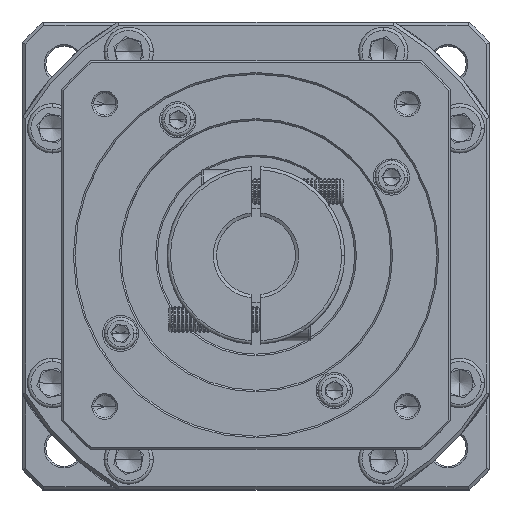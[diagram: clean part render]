
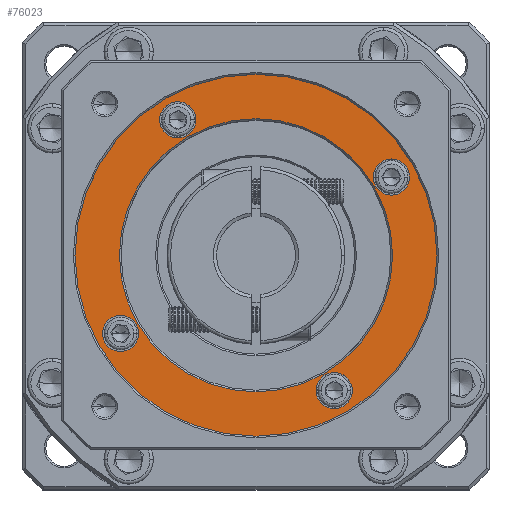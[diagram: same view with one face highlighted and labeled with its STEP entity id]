
A CAD part, top view. The second image highlights one B-rep face of the part: STEP entity #76023.
In plain terms, the highlighted planar face has unit normal (0, 0, 1).
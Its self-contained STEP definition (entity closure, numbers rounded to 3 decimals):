
#1924 = VERTEX_POINT ( 'NONE', #78557 ) ;
#3318 = CARTESIAN_POINT ( 'NONE',  ( -124.878, 127.627, -18.552 ) ) ;
#4926 = CIRCLE ( 'NONE', #24067, 5.5 ) ;
#5790 = DIRECTION ( 'NONE',  ( 0., 0., -1. ) ) ;
#5851 = EDGE_LOOP ( 'NONE', ( #95341, #35473 ) ) ;
#7870 = VERTEX_POINT ( 'NONE', #28276 ) ;
#9694 = EDGE_CURVE ( 'NONE', #20577, #7870, #68476, .T. ) ;
#10060 = ORIENTED_EDGE ( 'NONE', *, *, #37469, .T. ) ;
#12129 = EDGE_CURVE ( 'NONE', #106840, #51070, #41891, .T. ) ;
#12211 = VERTEX_POINT ( 'NONE', #58087 ) ;
#12556 = FACE_BOUND ( 'NONE', #71226, .T. ) ;
#15146 = CARTESIAN_POINT ( 'NONE',  ( -156.128, 86.491, -18.552 ) ) ;
#15352 = CARTESIAN_POINT ( 'NONE',  ( -65.492, 110.241, -18.552 ) ) ;
#16037 = CIRCLE ( 'NONE', #58797, 41.5 ) ;
#17160 = EDGE_LOOP ( 'NONE', ( #10060, #120176 ) ) ;
#17256 = CARTESIAN_POINT ( 'NONE',  ( -101.128, 86.491, -18.552 ) ) ;
#18727 = AXIS2_PLACEMENT_3D ( 'NONE', #112604, #68993, #79804 ) ;
#19427 = AXIS2_PLACEMENT_3D ( 'NONE', #50073, #125126, #135936 ) ;
#20474 = AXIS2_PLACEMENT_3D ( 'NONE', #117604, #64130, #54711 ) ;
#20577 = VERTEX_POINT ( 'NONE', #15146 ) ;
#20774 = CIRCLE ( 'NONE', #47630, 5.5 ) ;
#20835 = FACE_BOUND ( 'NONE', #17160, .T. ) ;
#21178 = AXIS2_PLACEMENT_3D ( 'NONE', #17256, #135815, #92133 ) ;
#21221 = EDGE_CURVE ( 'NONE', #119910, #12211, #4926, .T. ) ;
#21622 = CARTESIAN_POINT ( 'NONE',  ( -101.128, 86.491, -18.552 ) ) ;
#22550 = DIRECTION ( 'NONE',  ( 1., 0., 0. ) ) ;
#22603 = AXIS2_PLACEMENT_3D ( 'NONE', #3318, #23478, #109237 ) ;
#22881 = DIRECTION ( 'NONE',  ( 0., 0., -1. ) ) ;
#23283 = AXIS2_PLACEMENT_3D ( 'NONE', #95587, #54308, #63715 ) ;
#23478 = DIRECTION ( 'NONE',  ( 0., 0., -1. ) ) ;
#23731 = VERTEX_POINT ( 'NONE', #26807 ) ;
#24067 = AXIS2_PLACEMENT_3D ( 'NONE', #91163, #101478, #113226 ) ;
#26807 = CARTESIAN_POINT ( 'NONE',  ( -82.878, 45.355, -18.552 ) ) ;
#28276 = CARTESIAN_POINT ( 'NONE',  ( -46.128, 86.491, -18.552 ) ) ;
#31985 = EDGE_CURVE ( 'NONE', #51070, #106840, #46840, .T. ) ;
#32371 = CARTESIAN_POINT ( 'NONE',  ( -130.378, 127.627, -18.552 ) ) ;
#34748 = DIRECTION ( 'NONE',  ( 1., 0., 0. ) ) ;
#34788 = VERTEX_POINT ( 'NONE', #76261 ) ;
#35144 = EDGE_CURVE ( 'NONE', #34788, #60012, #85156, .T. ) ;
#35473 = ORIENTED_EDGE ( 'NONE', *, *, #12129, .T. ) ;
#37469 = EDGE_CURVE ( 'NONE', #12211, #119910, #83708, .T. ) ;
#41891 = CIRCLE ( 'NONE', #22603, 5.5 ) ;
#43053 = DIRECTION ( 'NONE',  ( 1., 0., 0. ) ) ;
#43266 = AXIS2_PLACEMENT_3D ( 'NONE', #48085, #123110, #69616 ) ;
#43507 = CARTESIAN_POINT ( 'NONE',  ( -119.378, 127.627, -18.552 ) ) ;
#44421 = VERTEX_POINT ( 'NONE', #74689 ) ;
#46840 = CIRCLE ( 'NONE', #92857, 5.5 ) ;
#47630 = AXIS2_PLACEMENT_3D ( 'NONE', #121835, #22881, #43053 ) ;
#47960 = DIRECTION ( 'NONE',  ( 0., -1., 0. ) ) ;
#48085 = CARTESIAN_POINT ( 'NONE',  ( -142.264, 62.741, -18.552 ) ) ;
#50073 = CARTESIAN_POINT ( 'NONE',  ( -59.992, 110.241, -18.552 ) ) ;
#51070 = VERTEX_POINT ( 'NONE', #43507 ) ;
#54209 = ORIENTED_EDGE ( 'NONE', *, *, #9694, .T. ) ;
#54308 = DIRECTION ( 'NONE',  ( 0., 0., -1. ) ) ;
#54711 = DIRECTION ( 'NONE',  ( 1., 0., 0. ) ) ;
#54888 = ORIENTED_EDGE ( 'NONE', *, *, #75714, .T. ) ;
#55328 = DIRECTION ( 'NONE',  ( 0., 0., 1. ) ) ;
#58087 = CARTESIAN_POINT ( 'NONE',  ( -54.492, 110.241, -18.552 ) ) ;
#58765 = CIRCLE ( 'NONE', #23283, 5.5 ) ;
#58797 = AXIS2_PLACEMENT_3D ( 'NONE', #91499, #5790, #47960 ) ;
#60012 = VERTEX_POINT ( 'NONE', #102189 ) ;
#63715 = DIRECTION ( 'NONE',  ( 1., 0., 0. ) ) ;
#63836 = DIRECTION ( 'NONE',  ( 1., 0., 0. ) ) ;
#64130 = DIRECTION ( 'NONE',  ( 0., 0., 1. ) ) ;
#68476 = CIRCLE ( 'NONE', #18727, 55. ) ;
#68993 = DIRECTION ( 'NONE',  ( 0., 0., 1. ) ) ;
#69616 = DIRECTION ( 'NONE',  ( 1., 0., 0. ) ) ;
#71226 = EDGE_LOOP ( 'NONE', ( #54888, #112574 ) ) ;
#73265 = EDGE_LOOP ( 'NONE', ( #111994, #54209 ) ) ;
#74689 = CARTESIAN_POINT ( 'NONE',  ( -101.128, 127.991, -18.552 ) ) ;
#75714 = EDGE_CURVE ( 'NONE', #1924, #44421, #16037, .T. ) ;
#76023 = ADVANCED_FACE ( 'NONE', ( #84710, #12556, #20835, #79637, #94633, #133314 ), #85824, .T. ) ;
#76261 = CARTESIAN_POINT ( 'NONE',  ( -136.764, 62.741, -18.552 ) ) ;
#76875 = AXIS2_PLACEMENT_3D ( 'NONE', #21622, #55328, #22550 ) ;
#77332 = ORIENTED_EDGE ( 'NONE', *, *, #103143, .T. ) ;
#77845 = CARTESIAN_POINT ( 'NONE',  ( -77.378, 45.355, -18.552 ) ) ;
#78557 = CARTESIAN_POINT ( 'NONE',  ( -101.128, 44.991, -18.552 ) ) ;
#79637 = FACE_BOUND ( 'NONE', #138790, .T. ) ;
#79804 = DIRECTION ( 'NONE',  ( 1., 0., 0. ) ) ;
#81801 = ORIENTED_EDGE ( 'NONE', *, *, #115119, .T. ) ;
#83708 = CIRCLE ( 'NONE', #19427, 5.5 ) ;
#84710 = FACE_OUTER_BOUND ( 'NONE', #73265, .T. ) ;
#84926 = CARTESIAN_POINT ( 'NONE',  ( -124.878, 127.627, -18.552 ) ) ;
#85156 = CIRCLE ( 'NONE', #43266, 5.5 ) ;
#85824 = PLANE ( 'NONE',  #76875 ) ;
#86154 = EDGE_CURVE ( 'NONE', #60012, #34788, #20774, .T. ) ;
#86245 = DIRECTION ( 'NONE',  ( 0., 0., -1. ) ) ;
#86756 = VERTEX_POINT ( 'NONE', #132463 ) ;
#88431 = CIRCLE ( 'NONE', #122090, 5.5 ) ;
#91163 = CARTESIAN_POINT ( 'NONE',  ( -59.992, 110.241, -18.552 ) ) ;
#91499 = CARTESIAN_POINT ( 'NONE',  ( -101.128, 86.491, -18.552 ) ) ;
#92133 = DIRECTION ( 'NONE',  ( 0., -1., 0. ) ) ;
#92857 = AXIS2_PLACEMENT_3D ( 'NONE', #84926, #127169, #63836 ) ;
#94633 = FACE_BOUND ( 'NONE', #5851, .T. ) ;
#95341 = ORIENTED_EDGE ( 'NONE', *, *, #31985, .T. ) ;
#95587 = CARTESIAN_POINT ( 'NONE',  ( -77.378, 45.355, -18.552 ) ) ;
#96818 = ORIENTED_EDGE ( 'NONE', *, *, #35144, .T. ) ;
#101478 = DIRECTION ( 'NONE',  ( 0., 0., -1. ) ) ;
#102189 = CARTESIAN_POINT ( 'NONE',  ( -147.764, 62.741, -18.552 ) ) ;
#103143 = EDGE_CURVE ( 'NONE', #23731, #86756, #88431, .T. ) ;
#106529 = CIRCLE ( 'NONE', #20474, 55. ) ;
#106840 = VERTEX_POINT ( 'NONE', #32371 ) ;
#108190 = EDGE_CURVE ( 'NONE', #7870, #20577, #106529, .T. ) ;
#109237 = DIRECTION ( 'NONE',  ( 1., 0., 0. ) ) ;
#111994 = ORIENTED_EDGE ( 'NONE', *, *, #108190, .T. ) ;
#112574 = ORIENTED_EDGE ( 'NONE', *, *, #122535, .T. ) ;
#112604 = CARTESIAN_POINT ( 'NONE',  ( -101.128, 86.491, -18.552 ) ) ;
#113226 = DIRECTION ( 'NONE',  ( 1., 0., 0. ) ) ;
#114949 = EDGE_LOOP ( 'NONE', ( #96818, #135649 ) ) ;
#115119 = EDGE_CURVE ( 'NONE', #86756, #23731, #58765, .T. ) ;
#117604 = CARTESIAN_POINT ( 'NONE',  ( -101.128, 86.491, -18.552 ) ) ;
#119910 = VERTEX_POINT ( 'NONE', #15352 ) ;
#120176 = ORIENTED_EDGE ( 'NONE', *, *, #21221, .T. ) ;
#121835 = CARTESIAN_POINT ( 'NONE',  ( -142.264, 62.741, -18.552 ) ) ;
#122090 = AXIS2_PLACEMENT_3D ( 'NONE', #77845, #86245, #34748 ) ;
#122535 = EDGE_CURVE ( 'NONE', #44421, #1924, #126830, .T. ) ;
#123110 = DIRECTION ( 'NONE',  ( 0., 0., -1. ) ) ;
#125126 = DIRECTION ( 'NONE',  ( 0., 0., -1. ) ) ;
#126830 = CIRCLE ( 'NONE', #21178, 41.5 ) ;
#127169 = DIRECTION ( 'NONE',  ( 0., 0., -1. ) ) ;
#132463 = CARTESIAN_POINT ( 'NONE',  ( -71.878, 45.355, -18.552 ) ) ;
#133314 = FACE_BOUND ( 'NONE', #114949, .T. ) ;
#135649 = ORIENTED_EDGE ( 'NONE', *, *, #86154, .T. ) ;
#135815 = DIRECTION ( 'NONE',  ( 0., 0., -1. ) ) ;
#135936 = DIRECTION ( 'NONE',  ( 1., 0., 0. ) ) ;
#138790 = EDGE_LOOP ( 'NONE', ( #81801, #77332 ) ) ;
